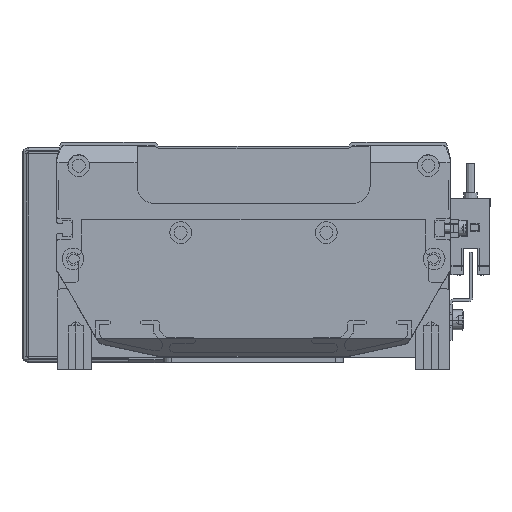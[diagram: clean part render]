
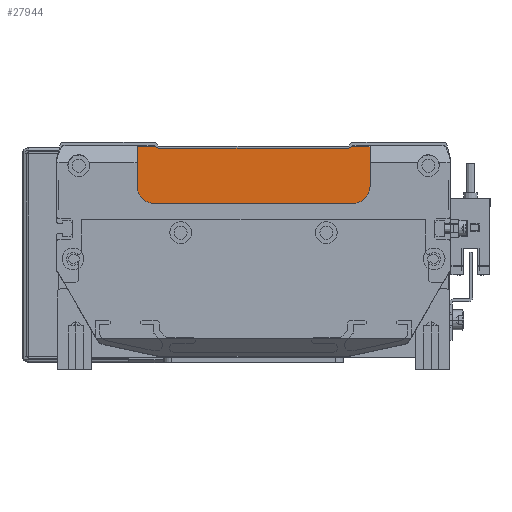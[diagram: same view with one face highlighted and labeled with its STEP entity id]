
A CAD part, front view. The second image highlights one B-rep face of the part: STEP entity #27944.
In plain terms, the highlighted planar face has unit normal (0, -1, 0) as drawn and (0, 0, -1) by its records, which use the part's own axes.
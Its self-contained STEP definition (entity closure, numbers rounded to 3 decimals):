
#28 = EDGE_CURVE ( 'NONE', #27189, #37689, #41545, .T. ) ;
#140 = VECTOR ( 'NONE', #29887, 1000. ) ;
#494 = CARTESIAN_POINT ( 'NONE',  ( 3.604, 21., -364. ) ) ;
#776 = FACE_OUTER_BOUND ( 'NONE', #27468, .T. ) ;
#795 = ORIENTED_EDGE ( 'NONE', *, *, #12974, .T. ) ;
#1221 = VERTEX_POINT ( 'NONE', #4221 ) ;
#1688 = EDGE_CURVE ( 'NONE', #38507, #40345, #18565, .T. ) ;
#2862 = EDGE_CURVE ( 'NONE', #1221, #29308, #13012, .T. ) ;
#2947 = ORIENTED_EDGE ( 'NONE', *, *, #17345, .T. ) ;
#3823 = LINE ( 'NONE', #20918, #18998 ) ;
#3873 = CARTESIAN_POINT ( 'NONE',  ( 37.604, 15., -364. ) ) ;
#4034 = CARTESIAN_POINT ( 'NONE',  ( -28.893, 2., -364. ) ) ;
#4169 = DIRECTION ( 'NONE',  ( 0., 0., -1. ) ) ;
#4221 = CARTESIAN_POINT ( 'NONE',  ( -36.396, 15., -364. ) ) ;
#5539 = VECTOR ( 'NONE', #28054, 1000. ) ;
#6011 = CARTESIAN_POINT ( 'NONE',  ( 36.1, 2., -364. ) ) ;
#7147 = DIRECTION ( 'NONE',  ( -1., 0., 0. ) ) ;
#8096 = DIRECTION ( 'NONE',  ( 0., 0., -1. ) ) ;
#8277 = LINE ( 'NONE', #38202, #26694 ) ;
#8669 = ORIENTED_EDGE ( 'NONE', *, *, #41103, .T. ) ;
#11598 = LINE ( 'NONE', #12947, #38188 ) ;
#11996 = ORIENTED_EDGE ( 'NONE', *, *, #19909, .T. ) ;
#12711 = VERTEX_POINT ( 'NONE', #6011 ) ;
#12947 = CARTESIAN_POINT ( 'NONE',  ( 3.604, 2., -364. ) ) ;
#12974 = EDGE_CURVE ( 'NONE', #33601, #38507, #43808, .T. ) ;
#13012 = CIRCLE ( 'NONE', #38488, 6. ) ;
#13300 = CARTESIAN_POINT ( 'NONE',  ( 43.604, 15., -364. ) ) ;
#14196 = VECTOR ( 'NONE', #31015, 1000. ) ;
#14366 = ORIENTED_EDGE ( 'NONE', *, *, #28, .T. ) ;
#14757 = DIRECTION ( 'NONE',  ( 1., 0., 0. ) ) ;
#14872 = AXIS2_PLACEMENT_3D ( 'NONE', #3873, #42428, #24517 ) ;
#15884 = LINE ( 'NONE', #21321, #140 ) ;
#17345 = EDGE_CURVE ( 'NONE', #37689, #22310, #33218, .T. ) ;
#18565 = LINE ( 'NONE', #34972, #14196 ) ;
#18814 = CARTESIAN_POINT ( 'NONE',  ( 3.604, 25., -364. ) ) ;
#18998 = VECTOR ( 'NONE', #28035, 1000. ) ;
#19909 = EDGE_CURVE ( 'NONE', #29308, #33601, #37405, .T. ) ;
#20689 = CARTESIAN_POINT ( 'NONE',  ( -36.396, 1.5, -364. ) ) ;
#20918 = CARTESIAN_POINT ( 'NONE',  ( -36.396, 25., -364. ) ) ;
#20984 = CARTESIAN_POINT ( 'NONE',  ( 37.604, 21., -364. ) ) ;
#21321 = CARTESIAN_POINT ( 'NONE',  ( 0.903, 19.599, -364. ) ) ;
#21629 = DIRECTION ( 'NONE',  ( 1., 0., 0. ) ) ;
#22310 = VERTEX_POINT ( 'NONE', #20689 ) ;
#24517 = DIRECTION ( 'NONE',  ( 1., 0., 0. ) ) ;
#24931 = VECTOR ( 'NONE', #14757, 1000. ) ;
#25056 = ORIENTED_EDGE ( 'NONE', *, *, #1688, .T. ) ;
#25561 = CARTESIAN_POINT ( 'NONE',  ( 43.604, 1.5, -364. ) ) ;
#26547 = DIRECTION ( 'NONE',  ( -0.894, -0.447, 0. ) ) ;
#26694 = VECTOR ( 'NONE', #7147, 1000. ) ;
#27189 = VERTEX_POINT ( 'NONE', #4034 ) ;
#27298 = VERTEX_POINT ( 'NONE', #36171 ) ;
#27468 = EDGE_LOOP ( 'NONE', ( #14366, #2947, #43750, #31834, #11996, #795, #25056, #35610, #35147, #8669 ) ) ;
#27944 = ADVANCED_FACE ( 'NONE', ( #776 ), #39618, .T. ) ;
#27956 = VECTOR ( 'NONE', #26547, 1000. ) ;
#28035 = DIRECTION ( 'NONE',  ( 0., 1., 0. ) ) ;
#28054 = DIRECTION ( 'NONE',  ( -1., 0., 0. ) ) ;
#28559 = CARTESIAN_POINT ( 'NONE',  ( -30.396, 15., -364. ) ) ;
#29308 = VERTEX_POINT ( 'NONE', #44352 ) ;
#29887 = DIRECTION ( 'NONE',  ( 0.894, -0.447, 0. ) ) ;
#30519 = EDGE_CURVE ( 'NONE', #22310, #1221, #3823, .T. ) ;
#31015 = DIRECTION ( 'NONE',  ( 0., -1., 0. ) ) ;
#31083 = CARTESIAN_POINT ( 'NONE',  ( 3.604, 1.5, -364. ) ) ;
#31834 = ORIENTED_EDGE ( 'NONE', *, *, #2862, .T. ) ;
#31918 = CARTESIAN_POINT ( 'NONE',  ( -29.893, 1.5, -364. ) ) ;
#33218 = LINE ( 'NONE', #31083, #5539 ) ;
#33601 = VERTEX_POINT ( 'NONE', #20984 ) ;
#34972 = CARTESIAN_POINT ( 'NONE',  ( 43.604, 25., -364. ) ) ;
#35147 = ORIENTED_EDGE ( 'NONE', *, *, #41292, .F. ) ;
#35610 = ORIENTED_EDGE ( 'NONE', *, *, #44614, .T. ) ;
#36171 = CARTESIAN_POINT ( 'NONE',  ( 37.1, 1.5, -364. ) ) ;
#36876 = CARTESIAN_POINT ( 'NONE',  ( -28.893, 2., -364. ) ) ;
#37405 = LINE ( 'NONE', #494, #24931 ) ;
#37689 = VERTEX_POINT ( 'NONE', #31918 ) ;
#37782 = DIRECTION ( 'NONE',  ( -1., 0., 0. ) ) ;
#38188 = VECTOR ( 'NONE', #37782, 1000. ) ;
#38202 = CARTESIAN_POINT ( 'NONE',  ( 3.604, 1.5, -364. ) ) ;
#38488 = AXIS2_PLACEMENT_3D ( 'NONE', #28559, #4169, #21629 ) ;
#38507 = VERTEX_POINT ( 'NONE', #13300 ) ;
#39618 = PLANE ( 'NONE',  #40615 ) ;
#40345 = VERTEX_POINT ( 'NONE', #25561 ) ;
#40615 = AXIS2_PLACEMENT_3D ( 'NONE', #18814, #8096, #43439 ) ;
#41103 = EDGE_CURVE ( 'NONE', #12711, #27189, #11598, .T. ) ;
#41292 = EDGE_CURVE ( 'NONE', #12711, #27298, #15884, .T. ) ;
#41545 = LINE ( 'NONE', #36876, #27956 ) ;
#42428 = DIRECTION ( 'NONE',  ( 0., 0., -1. ) ) ;
#43439 = DIRECTION ( 'NONE',  ( -1., 0., 0. ) ) ;
#43750 = ORIENTED_EDGE ( 'NONE', *, *, #30519, .T. ) ;
#43808 = CIRCLE ( 'NONE', #14872, 6. ) ;
#44352 = CARTESIAN_POINT ( 'NONE',  ( -30.396, 21., -364. ) ) ;
#44614 = EDGE_CURVE ( 'NONE', #40345, #27298, #8277, .T. ) ;
